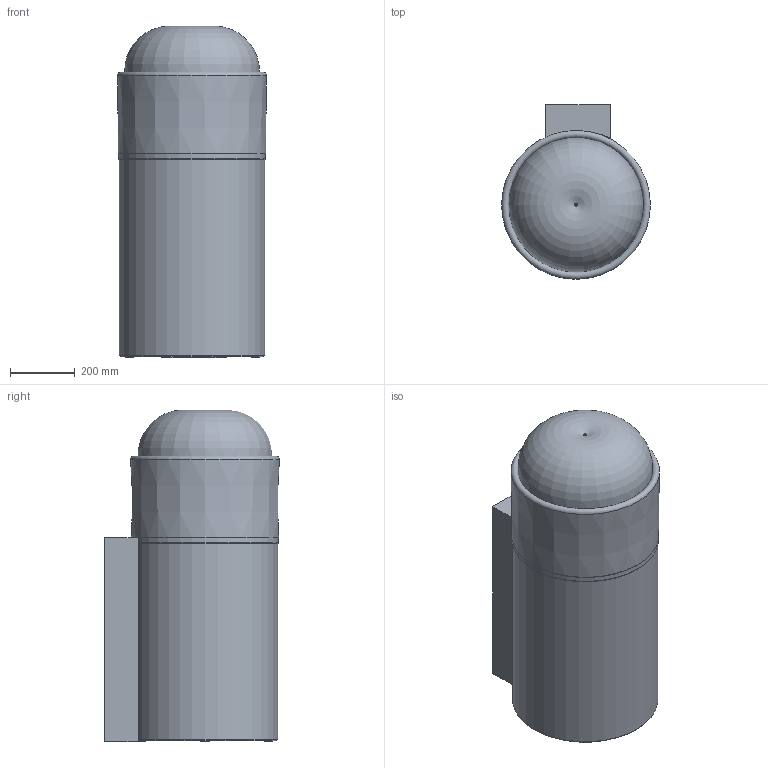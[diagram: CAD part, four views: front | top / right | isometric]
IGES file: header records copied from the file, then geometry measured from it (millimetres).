
Start section: Data from Parasolid IGES Translator 19.0.9, Copyright(c) 2006 Siemens PL M Software. All Rights Reserved.
Global section: file name: noorth-lavabi | washbasin-H 88 D 45 W 45_2539.igs; native system: By Siemens PLM Incorporated; preprocessor: XPlus GENERIC/IGES 19.0.9; author: Noname; organization: Noname; date: 20200511.115913; units: metre
Bounding box: 458 x 538 x 1021.6 mm (x, y, z)
Volume: 59788747.9 mm3; surface area: 4006595.3 mm2
Topology: 14 solids, 14 shells, 102 faces, 162 edges, 96 vertices
Faces by surface type: plane 39, cylinder 27, cone 21, torus 15
Full cylindrical faces by diameter (mm): 4.122 x2, 25 x4, 34.122 x2, 46.08 x1, 46.122 x1, 64 x1, 64.122 x1, 250 x1, 328.382 x1, 353 x1, 417 x1, 429 x1, 429.156 x1, 437 x3, 437.156 x1, 447 x3, 451 x1
